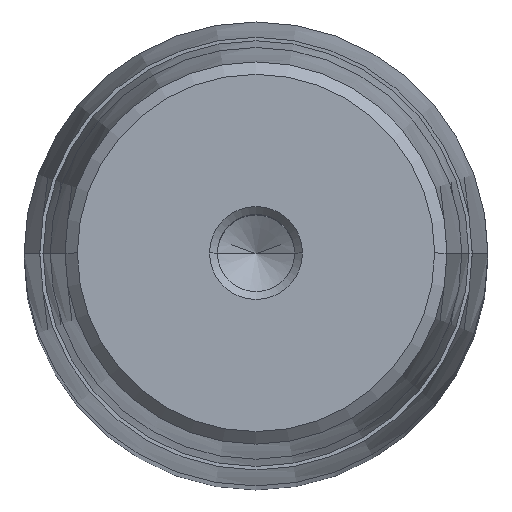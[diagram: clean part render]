
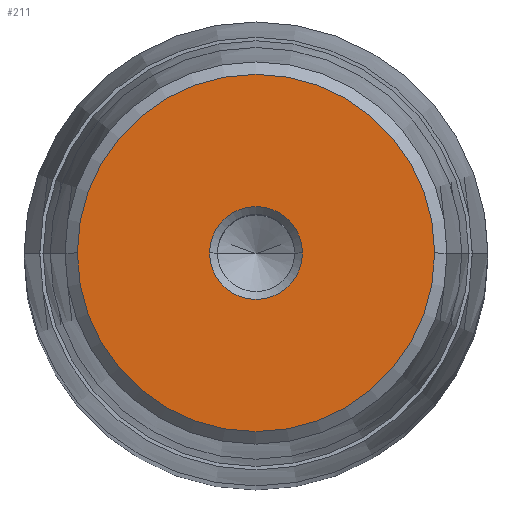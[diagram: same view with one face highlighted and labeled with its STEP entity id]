
A CAD part, top view. The second image highlights one B-rep face of the part: STEP entity #211.
In plain terms, the highlighted planar face has unit normal (0, 0, 1).
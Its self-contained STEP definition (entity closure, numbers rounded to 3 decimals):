
#136=CARTESIAN_POINT('Axis2P3D Location',(0.,0.,48.)) ;
#140=CARTESIAN_POINT('Vertex',(-4.,0.,48.)) ;
#142=CARTESIAN_POINT('Vertex',(4.,0.,48.)) ;
#179=CARTESIAN_POINT('Axis2P3D Location',(0.,4.,48.)) ;
#184=CARTESIAN_POINT('Axis2P3D Location',(0.,0.,48.)) ;
#188=CARTESIAN_POINT('Vertex',(-15.4,0.,48.)) ;
#190=CARTESIAN_POINT('Vertex',(15.4,0.,48.)) ;
#193=CARTESIAN_POINT('Axis2P3D Location',(0.,0.,48.)) ;
#202=CARTESIAN_POINT('Axis2P3D Location',(0.,0.,48.)) ;
#137=DIRECTION('Axis2P3D Direction',(0.,-0.,1.)) ;
#180=DIRECTION('Axis2P3D Direction',(0.,0.,-1.)) ;
#181=DIRECTION('Axis2P3D XDirection',(-1.,0.,0.)) ;
#185=DIRECTION('Axis2P3D Direction',(0.,0.,-1.)) ;
#194=DIRECTION('Axis2P3D Direction',(0.,0.,-1.)) ;
#203=DIRECTION('Axis2P3D Direction',(0.,0.,-1.)) ;
#138=AXIS2_PLACEMENT_3D('Circle Axis2P3D',#136,#137,$) ;
#182=AXIS2_PLACEMENT_3D('Plane Axis2P3D',#179,#180,#181) ;
#186=AXIS2_PLACEMENT_3D('Circle Axis2P3D',#184,#185,$) ;
#195=AXIS2_PLACEMENT_3D('Circle Axis2P3D',#193,#194,$) ;
#204=AXIS2_PLACEMENT_3D('Circle Axis2P3D',#202,#203,$) ;
#199=ORIENTED_EDGE('',*,*,#192,.F.) ;
#200=ORIENTED_EDGE('',*,*,#197,.F.) ;
#208=ORIENTED_EDGE('',*,*,#206,.T.) ;
#209=ORIENTED_EDGE('',*,*,#144,.T.) ;
#210=FACE_BOUND('',#207,.T.) ;
#211=ADVANCED_FACE('722-40x224x257',(#201,#210),#183,.F.) ;
#139=CIRCLE('generated circle',#138,4.) ;
#187=CIRCLE('generated circle',#186,15.4) ;
#196=CIRCLE('generated circle',#195,15.4) ;
#205=CIRCLE('generated circle',#204,4.) ;
#144=EDGE_CURVE('',#141,#143,#139,.F.) ;
#192=EDGE_CURVE('',#189,#191,#187,.T.) ;
#197=EDGE_CURVE('',#191,#189,#196,.T.) ;
#206=EDGE_CURVE('',#143,#141,#205,.T.) ;
#198=EDGE_LOOP('',(#199,#200)) ;
#207=EDGE_LOOP('',(#208,#209)) ;
#201=FACE_OUTER_BOUND('',#198,.T.) ;
#183=PLANE('Plane',#182) ;
#141=VERTEX_POINT('',#140) ;
#143=VERTEX_POINT('',#142) ;
#189=VERTEX_POINT('',#188) ;
#191=VERTEX_POINT('',#190) ;
